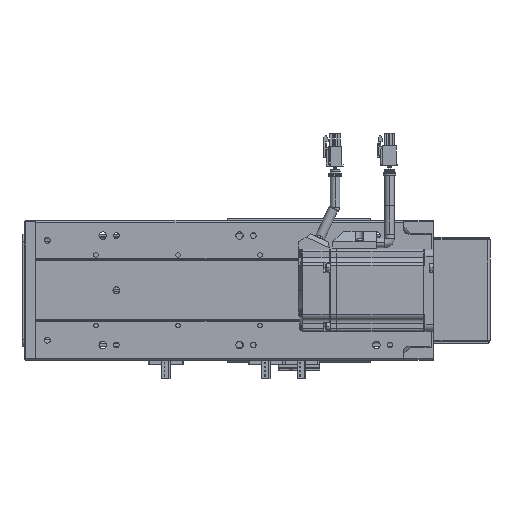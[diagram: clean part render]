
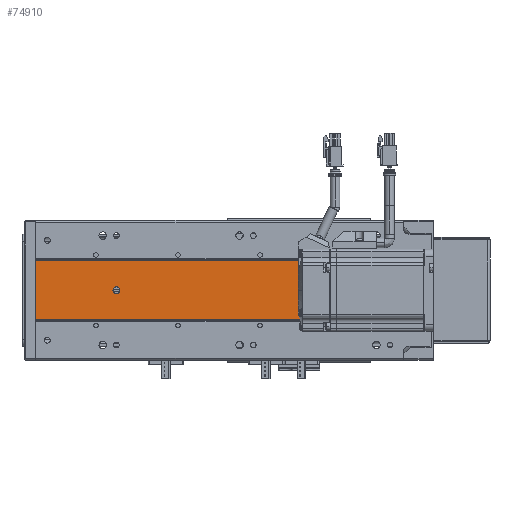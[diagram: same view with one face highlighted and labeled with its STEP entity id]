
A CAD part, front view. The second image highlights one B-rep face of the part: STEP entity #74910.
In plain terms, the highlighted planar face has unit normal (0, -1, 0).
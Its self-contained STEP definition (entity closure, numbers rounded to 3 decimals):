
#8033 = AXIS2_PLACEMENT_3D ( 'NONE', #14405, #14406, #14418 ) ;
#12485 = FACE_BOUND ( 'NONE', #57981, .T. ) ;
#12522 = FACE_BOUND ( 'NONE', #57977, .T. ) ;
#12597 = FACE_OUTER_BOUND ( 'NONE', #57991, .T. ) ;
#13482 = CARTESIAN_POINT ( 'NONE',  ( 118.817, 89.548, 286.302 ) ) ;
#14405 = CARTESIAN_POINT ( 'NONE',  ( 161.989, 89.548, 289. ) ) ;
#14406 = DIRECTION ( 'NONE',  ( 0., 1., 0. ) ) ;
#14411 = PLANE ( 'NONE',  #8033 ) ;
#14418 = DIRECTION ( 'NONE',  ( -1., 0., 0. ) ) ;
#25337 = AXIS2_PLACEMENT_3D ( 'NONE', #34644, #34631, #34638 ) ;
#25409 = AXIS2_PLACEMENT_3D ( 'NONE', #34606, #34614, #34610 ) ;
#25521 = AXIS2_PLACEMENT_3D ( 'NONE', #35033, #35009, #35052 ) ;
#25572 = AXIS2_PLACEMENT_3D ( 'NONE', #34961, #34925, #34926 ) ;
#25829 = AXIS2_PLACEMENT_3D ( 'NONE', #41349, #41343, #41313 ) ;
#25868 = AXIS2_PLACEMENT_3D ( 'NONE', #41394, #41368, #41402 ) ;
#25907 = AXIS2_PLACEMENT_3D ( 'NONE', #41182, #41149, #41156 ) ;
#25999 = AXIS2_PLACEMENT_3D ( 'NONE', #41549, #41521, #41458 ) ;
#33727 = CIRCLE ( 'NONE', #25409, 4.75 ) ;
#33807 = CIRCLE ( 'NONE', #25337, 4.75 ) ;
#33850 = CIRCLE ( 'NONE', #25572, 2.5 ) ;
#33880 = CIRCLE ( 'NONE', #25521, 2.5 ) ;
#33949 = VECTOR ( 'NONE', #35222, 1000. ) ;
#33960 = LINE ( 'NONE', #35226, #33949 ) ;
#33972 = VECTOR ( 'NONE', #35170, 1000. ) ;
#33979 = LINE ( 'NONE', #35236, #33989 ) ;
#33989 = VECTOR ( 'NONE', #35196, 1000. ) ;
#33992 = LINE ( 'NONE', #35145, #33972 ) ;
#34043 = VECTOR ( 'NONE', #35356, 1000. ) ;
#34060 = LINE ( 'NONE', #35365, #34043 ) ;
#34064 = VECTOR ( 'NONE', #35605, 1000. ) ;
#34116 = LINE ( 'NONE', #35608, #34064 ) ;
#34606 = CARTESIAN_POINT ( 'NONE',  ( 165.403, 89.548, 283. ) ) ;
#34610 = DIRECTION ( 'NONE',  ( -1., 0., 0. ) ) ;
#34614 = DIRECTION ( 'NONE',  ( 0., 1., 0. ) ) ;
#34631 = DIRECTION ( 'NONE',  ( 0., 1., 0. ) ) ;
#34638 = DIRECTION ( 'NONE',  ( -1., 0., 0. ) ) ;
#34644 = CARTESIAN_POINT ( 'NONE',  ( 165.403, 89.548, 273. ) ) ;
#34925 = DIRECTION ( 'NONE',  ( 0., -1., 0. ) ) ;
#34926 = DIRECTION ( 'NONE',  ( 1., 0., 0. ) ) ;
#34961 = CARTESIAN_POINT ( 'NONE',  ( 140.403, 89.548, 59. ) ) ;
#35009 = DIRECTION ( 'NONE',  ( 0., -1., 0. ) ) ;
#35033 = CARTESIAN_POINT ( 'NONE',  ( 140.403, 89.548, 259. ) ) ;
#35052 = DIRECTION ( 'NONE',  ( 1., 0., 0. ) ) ;
#35145 = CARTESIAN_POINT ( 'NONE',  ( 118.817, 89.548, 289. ) ) ;
#35170 = DIRECTION ( 'NONE',  ( 0., 0., -1. ) ) ;
#35196 = DIRECTION ( 'NONE',  ( 0., 0., -1. ) ) ;
#35222 = DIRECTION ( 'NONE',  ( 0., 0., -1. ) ) ;
#35226 = CARTESIAN_POINT ( 'NONE',  ( 161.989, 89.548, 289. ) ) ;
#35236 = CARTESIAN_POINT ( 'NONE',  ( 118.817, 89.548, 289. ) ) ;
#35356 = DIRECTION ( 'NONE',  ( 1., 0., 0. ) ) ;
#35365 = CARTESIAN_POINT ( 'NONE',  ( 161.989, 89.548, 289. ) ) ;
#35605 = DIRECTION ( 'NONE',  ( 0., 0., -1. ) ) ;
#35608 = CARTESIAN_POINT ( 'NONE',  ( 161.989, 89.548, 289. ) ) ;
#39935 = VECTOR ( 'NONE', #41020, 1000. ) ;
#39937 = VECTOR ( 'NONE', #41066, 1000. ) ;
#39945 = LINE ( 'NONE', #41019, #39935 ) ;
#39964 = LINE ( 'NONE', #41088, #39937 ) ;
#40037 = CIRCLE ( 'NONE', #25907, 2.5 ) ;
#40064 = VECTOR ( 'NONE', #41307, 1000. ) ;
#40069 = LINE ( 'NONE', #41281, #40064 ) ;
#40077 = CIRCLE ( 'NONE', #25868, 4.75 ) ;
#40098 = CIRCLE ( 'NONE', #25829, 4.75 ) ;
#40151 = CIRCLE ( 'NONE', #25999, 2.5 ) ;
#41019 = CARTESIAN_POINT ( 'NONE',  ( 118.817, 89.548, 289. ) ) ;
#41020 = DIRECTION ( 'NONE',  ( 0., 0., -1. ) ) ;
#41066 = DIRECTION ( 'NONE',  ( 0., 0., -1. ) ) ;
#41088 = CARTESIAN_POINT ( 'NONE',  ( 161.989, 89.548, 289. ) ) ;
#41149 = DIRECTION ( 'NONE',  ( 0., -1., 0. ) ) ;
#41156 = DIRECTION ( 'NONE',  ( 1., 0., 0. ) ) ;
#41182 = CARTESIAN_POINT ( 'NONE',  ( 140.403, 89.548, 259. ) ) ;
#41281 = CARTESIAN_POINT ( 'NONE',  ( 161.989, 89.548, 0. ) ) ;
#41307 = DIRECTION ( 'NONE',  ( 1., 0., 0. ) ) ;
#41313 = DIRECTION ( 'NONE',  ( -1., 0., 0. ) ) ;
#41343 = DIRECTION ( 'NONE',  ( 0., 1., 0. ) ) ;
#41349 = CARTESIAN_POINT ( 'NONE',  ( 115.403, 89.548, 283. ) ) ;
#41368 = DIRECTION ( 'NONE',  ( 0., 1., 0. ) ) ;
#41394 = CARTESIAN_POINT ( 'NONE',  ( 115.403, 89.548, 273. ) ) ;
#41402 = DIRECTION ( 'NONE',  ( -1., 0., 0. ) ) ;
#41458 = DIRECTION ( 'NONE',  ( 1., 0., 0. ) ) ;
#41521 = DIRECTION ( 'NONE',  ( 0., -1., 0. ) ) ;
#41549 = CARTESIAN_POINT ( 'NONE',  ( 140.403, 89.548, 59. ) ) ;
#42513 = CARTESIAN_POINT ( 'NONE',  ( 161.989, 89.548, 279.698 ) ) ;
#42517 = CARTESIAN_POINT ( 'NONE',  ( 161.989, 89.548, 269.698 ) ) ;
#42633 = CARTESIAN_POINT ( 'NONE',  ( 142.903, 89.548, 59. ) ) ;
#42637 = CARTESIAN_POINT ( 'NONE',  ( 137.903, 89.548, 59. ) ) ;
#42676 = CARTESIAN_POINT ( 'NONE',  ( 142.903, 89.548, 259. ) ) ;
#42682 = CARTESIAN_POINT ( 'NONE',  ( 137.903, 89.548, 259. ) ) ;
#42690 = CARTESIAN_POINT ( 'NONE',  ( 118.817, 89.548, 269.698 ) ) ;
#42748 = CARTESIAN_POINT ( 'NONE',  ( 161.989, 89.548, 0. ) ) ;
#51531 = CARTESIAN_POINT ( 'NONE',  ( 161.989, 89.548, 289. ) ) ;
#51569 = CARTESIAN_POINT ( 'NONE',  ( 118.817, 89.548, 289. ) ) ;
#51596 = CARTESIAN_POINT ( 'NONE',  ( 118.817, 89.548, 279.698 ) ) ;
#53455 = CARTESIAN_POINT ( 'NONE',  ( 118.817, 89.548, 276.302 ) ) ;
#57977 = EDGE_LOOP ( 'NONE', ( #91800, #91847 ) ) ;
#57981 = EDGE_LOOP ( 'NONE', ( #91809, #91831 ) ) ;
#57991 = EDGE_LOOP ( 'NONE', ( #91777, #91821, #91796, #91815, #91802, #91880, #91853, #91854, #91817, #91808, #91870, #91884 ) ) ;
#63144 = VERTEX_POINT ( 'NONE', #86837 ) ;
#63231 = VERTEX_POINT ( 'NONE', #86976 ) ;
#63242 = VERTEX_POINT ( 'NONE', #83473 ) ;
#63281 = VERTEX_POINT ( 'NONE', #42513 ) ;
#63288 = VERTEX_POINT ( 'NONE', #42517 ) ;
#63374 = VERTEX_POINT ( 'NONE', #42676 ) ;
#63396 = VERTEX_POINT ( 'NONE', #42637 ) ;
#63398 = VERTEX_POINT ( 'NONE', #42633 ) ;
#63412 = VERTEX_POINT ( 'NONE', #42682 ) ;
#64339 = VERTEX_POINT ( 'NONE', #42690 ) ;
#64340 = VERTEX_POINT ( 'NONE', #42748 ) ;
#74162 = VERTEX_POINT ( 'NONE', #53455 ) ;
#74252 = VERTEX_POINT ( 'NONE', #51569 ) ;
#74256 = VERTEX_POINT ( 'NONE', #51531 ) ;
#74268 = VERTEX_POINT ( 'NONE', #51596 ) ;
#74410 = VERTEX_POINT ( 'NONE', #13482 ) ;
#74910 = ADVANCED_FACE ( 'NONE', ( #12522, #12485, #12597 ), #14411, .F. ) ;
#80398 = EDGE_CURVE ( 'NONE', #63281, #63242, #33727, .T. ) ;
#80419 = EDGE_CURVE ( 'NONE', #63288, #63231, #33807, .T. ) ;
#80505 = EDGE_CURVE ( 'NONE', #63396, #63398, #33850, .T. ) ;
#80524 = EDGE_CURVE ( 'NONE', #63412, #63374, #33880, .T. ) ;
#80571 = EDGE_CURVE ( 'NONE', #64339, #63144, #33992, .T. ) ;
#80576 = EDGE_CURVE ( 'NONE', #74268, #74162, #33979, .T. ) ;
#80579 = EDGE_CURVE ( 'NONE', #63288, #64340, #33960, .T. ) ;
#80611 = EDGE_CURVE ( 'NONE', #74252, #74256, #34060, .T. ) ;
#80673 = EDGE_CURVE ( 'NONE', #63281, #63231, #34116, .T. ) ;
#83473 = CARTESIAN_POINT ( 'NONE',  ( 161.989, 89.548, 286.302 ) ) ;
#86837 = CARTESIAN_POINT ( 'NONE',  ( 118.817, 89.548, 0. ) ) ;
#86976 = CARTESIAN_POINT ( 'NONE',  ( 161.989, 89.548, 276.302 ) ) ;
#89250 = EDGE_CURVE ( 'NONE', #74252, #74410, #39945, .T. ) ;
#89266 = EDGE_CURVE ( 'NONE', #74256, #63242, #39964, .T. ) ;
#89290 = EDGE_CURVE ( 'NONE', #63374, #63412, #40037, .T. ) ;
#89323 = EDGE_CURVE ( 'NONE', #63144, #64340, #40069, .T. ) ;
#89324 = EDGE_CURVE ( 'NONE', #74410, #74268, #40098, .T. ) ;
#89345 = EDGE_CURVE ( 'NONE', #74162, #64339, #40077, .T. ) ;
#89360 = EDGE_CURVE ( 'NONE', #63398, #63396, #40151, .T. ) ;
#91777 = ORIENTED_EDGE ( 'NONE', *, *, #80673, .F. ) ;
#91796 = ORIENTED_EDGE ( 'NONE', *, *, #89266, .F. ) ;
#91800 = ORIENTED_EDGE ( 'NONE', *, *, #89290, .F. ) ;
#91802 = ORIENTED_EDGE ( 'NONE', *, *, #89250, .T. ) ;
#91808 = ORIENTED_EDGE ( 'NONE', *, *, #89323, .T. ) ;
#91809 = ORIENTED_EDGE ( 'NONE', *, *, #89360, .F. ) ;
#91815 = ORIENTED_EDGE ( 'NONE', *, *, #80611, .F. ) ;
#91817 = ORIENTED_EDGE ( 'NONE', *, *, #80571, .T. ) ;
#91821 = ORIENTED_EDGE ( 'NONE', *, *, #80398, .T. ) ;
#91831 = ORIENTED_EDGE ( 'NONE', *, *, #80505, .F. ) ;
#91847 = ORIENTED_EDGE ( 'NONE', *, *, #80524, .F. ) ;
#91853 = ORIENTED_EDGE ( 'NONE', *, *, #80576, .T. ) ;
#91854 = ORIENTED_EDGE ( 'NONE', *, *, #89345, .T. ) ;
#91870 = ORIENTED_EDGE ( 'NONE', *, *, #80579, .F. ) ;
#91880 = ORIENTED_EDGE ( 'NONE', *, *, #89324, .T. ) ;
#91884 = ORIENTED_EDGE ( 'NONE', *, *, #80419, .T. ) ;
